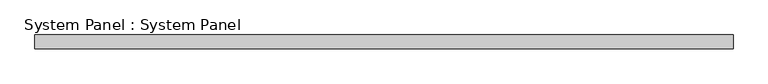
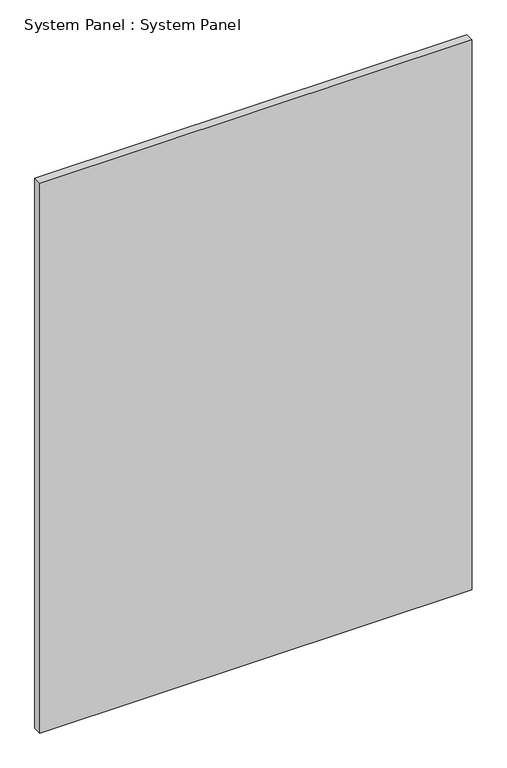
"""IFC4 building model written with IfcOpenShell, lengths in millimetres: plate geometry, System Panel : System Panel."""

from ifc_helpers import new_model, si_unit, origin, origin_with_axes, place, context, project, spatial, polyline, outline, extrude, source, transform, mapped, element, save


def system_panel_system_panel_6ff97b90(model_context):
    return source(origin(), model_context, "Body", "SweptSolid", [
        extrude(outline(polyline([(644.525, 19.05), (-644.525, 19.05), (-644.525, 44.45), (644.525, 44.45), (644.525, 19.05)])), origin_with_axes(), (0.0, 0.0, 1.0), 1733.55),
    ])


if __name__ == "__main__":
    model = new_model("IFC4")
    model_context = context("Model", 3, world=origin())
    ifc_project = project(units=[si_unit("LENGTHUNIT", "METRE", prefix="MILLI")], contexts=[model_context])
    site = spatial("IfcSite", under=ifc_project)
    building = spatial("IfcBuilding", under=site)
    placement = place(None, origin())
    system_panel_system_panel_shape = system_panel_system_panel_6ff97b90(model_context)
    element("IfcPlate", 1, ObjectType="System Panel : System Panel", at=placement, inside=building, context=model_context, shape_type="MappedRepresentation", body=[
        mapped(system_panel_system_panel_shape, transform((0.0, 0.0, 0.0), x_axis=(1.0, 0.0, 0.0), y_axis=(0.0, 1.0, 0.0), z_axis=(0.0, 0.0, 1.0))),
    ])
    save(model, "model.ifc")
